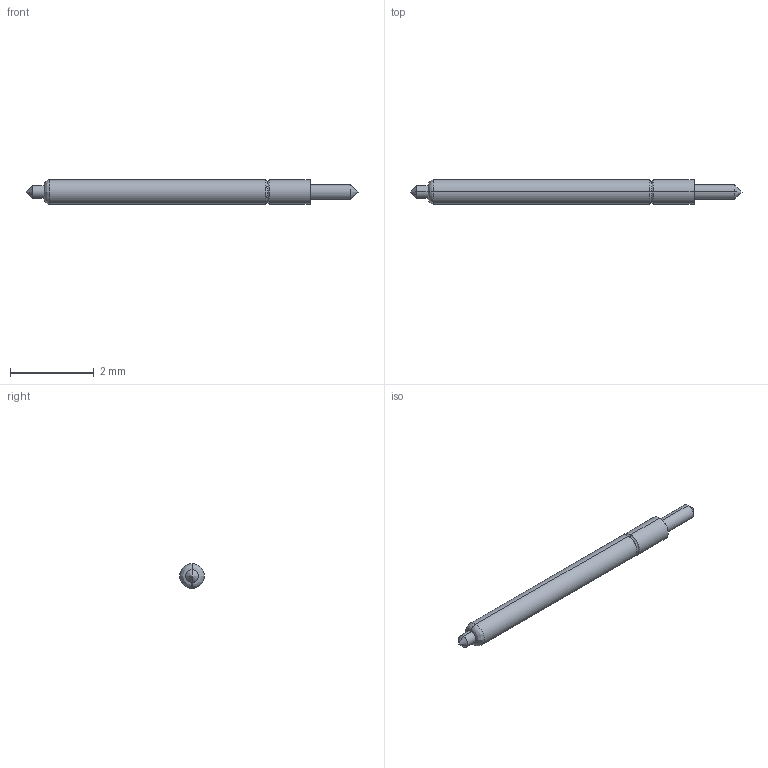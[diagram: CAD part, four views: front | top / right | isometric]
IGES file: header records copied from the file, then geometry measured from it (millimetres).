
Start section: SolidWorks IGES file using analytic representation for surfaces
Global section: file name: Z:\probe solid model mockups\Solidworks models\IGES Files\CSP8-25 IGES files\CSP8-25BB RECD.IGS; native system: SolidWorks 2006 by SolidWorks Corporation; preprocessor: SolidWorks 2006 by SolidWorks Corporation; author: tsakatani; date: 080108.153624; units: inch
Bounding box: 7.92 x 0.58 x 0.58 mm (x, y, z)
Surface area: 13.6 mm2 (no closed solid volume)
Topology: 0 solids, 0 shells, 19 faces, 104 edges, 100 vertices
Faces by surface type: revolution 12, bspline 7
